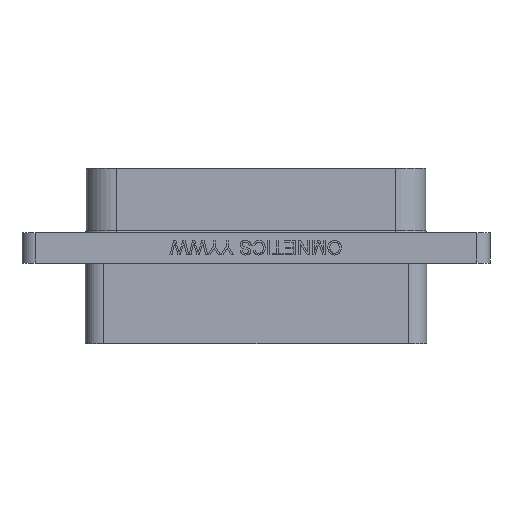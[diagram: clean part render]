
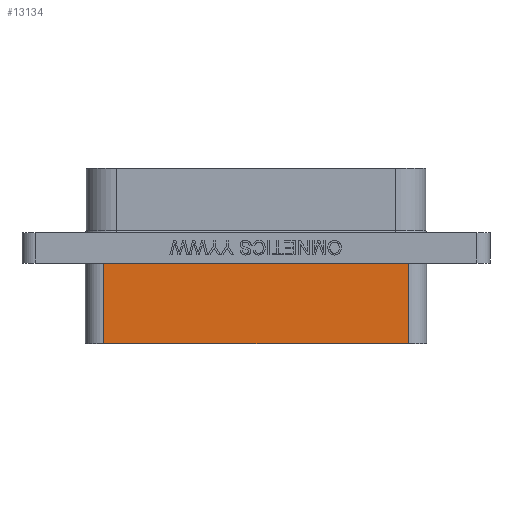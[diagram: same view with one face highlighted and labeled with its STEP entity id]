
A CAD part, front view. The second image highlights one B-rep face of the part: STEP entity #13134.
In plain terms, the highlighted planar face has unit normal (0, -1, 0).
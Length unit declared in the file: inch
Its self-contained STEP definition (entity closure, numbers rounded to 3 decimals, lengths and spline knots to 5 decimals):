
#1747 = ORIENTED_EDGE ( 'NONE', *, *, #55378, .T. ) ;
#2239 = ORIENTED_EDGE ( 'NONE', *, *, #23680, .T. ) ;
#2852 = DIRECTION ( 'NONE',  ( 0., 0., 1. ) ) ;
#5220 = CARTESIAN_POINT ( 'NONE',  ( -0.464, -0.12985, -0.053 ) ) ;
#8192 = DIRECTION ( 'NONE',  ( 1., 0., 0. ) ) ;
#10765 = CARTESIAN_POINT ( 'NONE',  ( -0.464, -0.12985, -0.298 ) ) ;
#12316 = LINE ( 'NONE', #34037, #24256 ) ;
#13134 = ADVANCED_FACE ( 'NONE', ( #31585 ), #40223, .T. ) ;
#14898 = ORIENTED_EDGE ( 'NONE', *, *, #27773, .F. ) ;
#15471 = DIRECTION ( 'NONE',  ( 0., 0., -1. ) ) ;
#16274 = CARTESIAN_POINT ( 'NONE',  ( 0.464, -0.12985, -0.053 ) ) ;
#16698 = CARTESIAN_POINT ( 'NONE',  ( -0.464, -0.12985, -0.298 ) ) ;
#17376 = VERTEX_POINT ( 'NONE', #16698 ) ;
#18826 = VECTOR ( 'NONE', #8192, 39.37008 ) ;
#23668 = DIRECTION ( 'NONE',  ( 1., 0., 0. ) ) ;
#23680 = EDGE_CURVE ( 'NONE', #17376, #29989, #32503, .T. ) ;
#24256 = VECTOR ( 'NONE', #47950, 39.37008 ) ;
#25508 = VERTEX_POINT ( 'NONE', #16274 ) ;
#25584 = CARTESIAN_POINT ( 'NONE',  ( 0.464, -0.12985, -0.298 ) ) ;
#26463 = AXIS2_PLACEMENT_3D ( 'NONE', #32770, #51360, #15471 ) ;
#27773 = EDGE_CURVE ( 'NONE', #55887, #25508, #35546, .T. ) ;
#29989 = VERTEX_POINT ( 'NONE', #25584 ) ;
#30548 = VECTOR ( 'NONE', #23668, 39.37008 ) ;
#31585 = FACE_OUTER_BOUND ( 'NONE', #53886, .T. ) ;
#31641 = EDGE_CURVE ( 'NONE', #17376, #55887, #12316, .T. ) ;
#32503 = LINE ( 'NONE', #10765, #30548 ) ;
#32770 = CARTESIAN_POINT ( 'NONE',  ( -0.464, -0.12985, -0.298 ) ) ;
#34037 = CARTESIAN_POINT ( 'NONE',  ( -0.464, -0.12985, -0.298 ) ) ;
#35240 = CARTESIAN_POINT ( 'NONE',  ( -0.464, -0.12985, -0.053 ) ) ;
#35546 = LINE ( 'NONE', #35240, #18826 ) ;
#40223 = PLANE ( 'NONE',  #26463 ) ;
#47950 = DIRECTION ( 'NONE',  ( 0., 0., 1. ) ) ;
#48001 = ORIENTED_EDGE ( 'NONE', *, *, #31641, .F. ) ;
#51360 = DIRECTION ( 'NONE',  ( 0., -1., 0. ) ) ;
#51361 = VECTOR ( 'NONE', #2852, 39.37008 ) ;
#51407 = LINE ( 'NONE', #52000, #51361 ) ;
#52000 = CARTESIAN_POINT ( 'NONE',  ( 0.464, -0.12985, -0.298 ) ) ;
#53886 = EDGE_LOOP ( 'NONE', ( #14898, #48001, #2239, #1747 ) ) ;
#55378 = EDGE_CURVE ( 'NONE', #29989, #25508, #51407, .T. ) ;
#55887 = VERTEX_POINT ( 'NONE', #5220 ) ;
